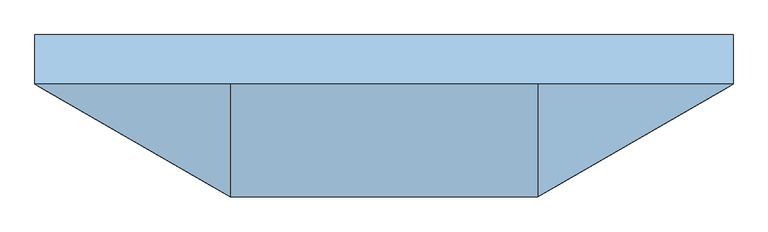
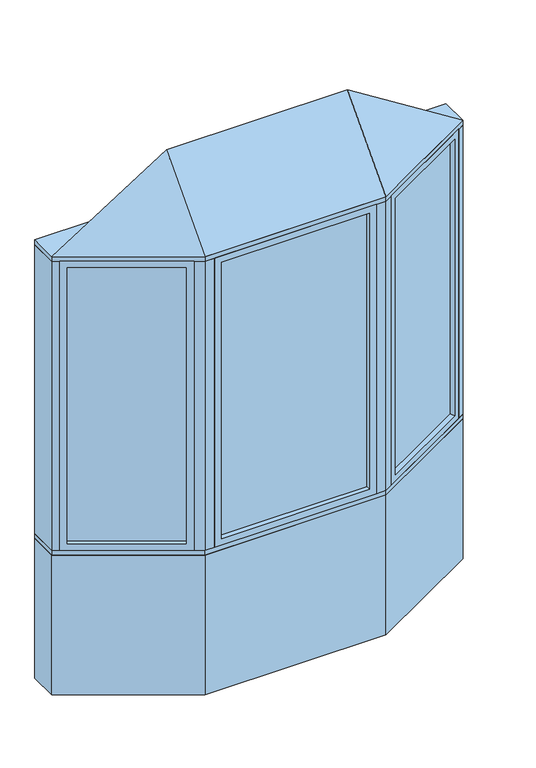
"""IFC4 building model written with IfcOpenShell, lengths in millimetres: window geometry, Pollard_Windows_Tudor Casement Bows and Bays : AML-BAY 30 AFR0616-10-600."""

from ifc_helpers import new_model, si_unit, frame, origin, origin_with_axes, place, context, project, spatial, polyline, outline, extrude, faceted_brep, source, transform, mapped, element, save


def window_2a9c98d8(model_context):
    return source(origin(), model_context, "Body", "SolidModel", [
        extrude(outline(polyline([(1013.112102, -82.0482469), (524.8834764, -363.9271754), (522.3434764, -359.5277664), (1010.572102, -77.6488379), (1013.112102, -82.0482469)])), frame((0.0, 0.0, 823.1628), z_axis=(0.0, 0.0, 1.0), x_axis=(1.0, 0.0, 0.0)), (0.0, 0.0, 1.0), 1553.6704),
        faceted_brep([(1002.1135794, -88.3982469, 835.8628), (1014.8135794, -110.3952922, 835.8628), (1014.8135794, -110.3952922, 2364.1332), (1002.1135794, -88.3982469, 2364.1332), (1010.572102, -77.6488379, 823.1628), (1013.112102, -82.0482469, 823.1628), (1013.112102, -82.0482469, 2376.8332), (1010.572102, -77.6488379, 2376.8332), (986.8735794, -62.0017926, 835.8628), (999.5735794, -83.9988379, 835.8628), (999.5735794, -83.9988379, 2364.1332), (986.8735794, -62.0017926, 2364.1332), (1045.8734073, -92.4628922, 799.998), (1017.9334073, -44.0693926, 799.998), (1017.9334073, -44.0693926, 2399.998), (1045.8734073, -92.4628922, 2399.998), (548.581999, -379.5742207, 2364.1332), (535.881999, -357.5771754, 2364.1332), (524.8834764, -363.9271754, 2376.8332), (522.3434764, -359.5277664, 2376.8332), (533.341999, -353.1777664, 2364.1332), (520.641999, -331.1807211, 2364.1332), (489.5821711, -349.1131211, 2399.998), (517.5221711, -397.5066207, 2399.998), (548.581999, -379.5742207, 835.8628), (535.881999, -357.5771754, 835.8628), (524.8834764, -363.9271754, 823.1628), (522.3434764, -359.5277664, 823.1628), (533.341999, -353.1777664, 835.8628), (520.641999, -331.1807211, 835.8628), (489.5821711, -349.1131211, 799.998), (517.5221711, -397.5066207, 799.998)], [[[0, 1, 2, 3]], [[4, 5, 6, 7]], [[8, 9, 10, 11]], [[12, 13, 14, 15]], [[3, 2, 16, 17]], [[7, 6, 18, 19]], [[11, 10, 20, 21]], [[15, 14, 22, 23]], [[17, 16, 24, 25]], [[19, 18, 26, 27]], [[21, 20, 28, 29]], [[23, 22, 30, 31]], [[25, 24, 1, 0]], [[5, 26, 18, 6], [3, 17, 25, 0]], [[27, 26, 5, 4]], [[7, 19, 27, 4], [9, 28, 20, 10]], [[29, 28, 9, 8]], [[13, 30, 22, 14], [11, 21, 29, 8]], [[31, 30, 13, 12]], [[15, 23, 31, 12], [1, 24, 16, 2]]]),
        extrude(outline(polyline([(-524.8834764, -363.9271754), (-1013.112102, -82.0482469), (-1010.572102, -77.6488379), (-522.3434764, -359.5277664), (-524.8834764, -363.9271754)])), frame((0.0, 0.0, 823.1628), z_axis=(0.0, 0.0, 1.0), x_axis=(1.0, 0.0, 0.0)), (0.0, 0.0, 1.0), 1553.6704),
        faceted_brep([(-533.341999, -353.1777664, 2364.1332), (-520.641999, -331.1807211, 2364.1332), (-520.641999, -331.1807211, 835.8628), (-533.341999, -353.1777664, 835.8628), (-524.8834764, -363.9271754, 2376.8332), (-522.3434764, -359.5277664, 2376.8332), (-522.3434764, -359.5277664, 823.1628), (-524.8834764, -363.9271754, 823.1628), (-548.581999, -379.5742207, 2364.1332), (-535.881999, -357.5771754, 2364.1332), (-535.881999, -357.5771754, 835.8628), (-548.581999, -379.5742207, 835.8628), (-489.5821711, -349.1131211, 2399.998), (-517.5221711, -397.5066207, 2399.998), (-517.5221711, -397.5066207, 799.998), (-489.5821711, -349.1131211, 799.998), (-986.8735794, -62.0017926, 835.8628), (-999.5735794, -83.9988379, 835.8628), (-1010.572102, -77.6488379, 823.1628), (-1013.112102, -82.0482469, 823.1628), (-1002.1135794, -88.3982469, 835.8628), (-1014.8135794, -110.3952922, 835.8628), (-1045.8734073, -92.4628922, 799.998), (-1017.9334073, -44.0693926, 799.998), (-986.8735794, -62.0017926, 2364.1332), (-999.5735794, -83.9988379, 2364.1332), (-1010.572102, -77.6488379, 2376.8332), (-1013.112102, -82.0482469, 2376.8332), (-1002.1135794, -88.3982469, 2364.1332), (-1014.8135794, -110.3952922, 2364.1332), (-1045.8734073, -92.4628922, 2399.998), (-1017.9334073, -44.0693926, 2399.998)], [[[0, 1, 2, 3]], [[4, 5, 6, 7]], [[8, 9, 10, 11]], [[12, 13, 14, 15]], [[3, 2, 16, 17]], [[7, 6, 18, 19]], [[11, 10, 20, 21]], [[15, 14, 22, 23]], [[17, 16, 24, 25]], [[19, 18, 26, 27]], [[21, 20, 28, 29]], [[23, 22, 30, 31]], [[15, 23, 31, 12], [1, 24, 16, 2]], [[25, 24, 1, 0]], [[5, 26, 18, 6], [3, 17, 25, 0]], [[27, 26, 5, 4]], [[7, 19, 27, 4], [9, 28, 20, 10]], [[29, 28, 9, 8]], [[13, 30, 22, 14], [11, 21, 29, 8]], [[31, 30, 13, 12]]]),
        extrude(outline(polyline([(401.0561009, -397.1066207), (-401.0561009, -397.1066207), (-401.0561009, -392.0266207), (401.0561009, -392.0266207), (401.0561009, -397.1066207)])), frame((0.0, 0.0, 823.1628), z_axis=(0.0, 0.0, 1.0), x_axis=(1.0, 0.0, 0.0)), (0.0, 0.0, 1.0), 1553.6704),
        faceted_brep([(388.3561009, -397.1066207, 835.8628), (388.3561009, -422.5066207, 835.8628), (388.3561009, -422.5066207, 2364.1332), (388.3561009, -397.1066207, 2364.1332), (401.0561009, -392.0266207, 823.1628), (401.0561009, -397.1066207, 823.1628), (401.0561009, -397.1066207, 2376.8332), (401.0561009, -392.0266207, 2376.8332), (388.3561009, -366.6266207, 835.8628), (388.3561009, -392.0266207, 835.8628), (388.3561009, -392.0266207, 2364.1332), (388.3561009, -366.6266207, 2364.1332), (424.2209009, -422.5066207, 799.998), (424.2209009, -366.6266207, 799.998), (424.2209009, -366.6266207, 2399.998), (424.2209009, -422.5066207, 2399.998), (-388.3561009, -422.5066207, 2364.1332), (-388.3561009, -397.1066207, 2364.1332), (-401.0561009, -397.1066207, 2376.8332), (-401.0561009, -392.0266207, 2376.8332), (-388.3561009, -392.0266207, 2364.1332), (-388.3561009, -366.6266207, 2364.1332), (-424.2209009, -366.6266207, 2399.998), (-424.2209009, -422.5066207, 2399.998), (-388.3561009, -422.5066207, 835.8628), (-388.3561009, -397.1066207, 835.8628), (-401.0561009, -397.1066207, 823.1628), (-401.0561009, -392.0266207, 823.1628), (-388.3561009, -392.0266207, 835.8628), (-388.3561009, -366.6266207, 835.8628), (-424.2209009, -366.6266207, 799.998), (-424.2209009, -422.5066207, 799.998)], [[[0, 1, 2, 3]], [[4, 5, 6, 7]], [[8, 9, 10, 11]], [[12, 13, 14, 15]], [[3, 2, 16, 17]], [[7, 6, 18, 19]], [[11, 10, 20, 21]], [[15, 14, 22, 23]], [[17, 16, 24, 25]], [[19, 18, 26, 27]], [[21, 20, 28, 29]], [[23, 22, 30, 31]], [[15, 23, 31, 12], [1, 24, 16, 2]], [[25, 24, 1, 0]], [[5, 26, 18, 6], [3, 17, 25, 0]], [[27, 26, 5, 4]], [[7, 19, 27, 4], [9, 28, 20, 10]], [[29, 28, 9, 8]], [[13, 30, 22, 14], [11, 21, 29, 8]], [[31, 30, 13, 12]]]),
        faceted_brep([(1076.5, -74.7806207, 2425.398), (474.2209009, -422.5066207, 2425.398), (-474.2209009, -422.5066207, 2425.398), (-1076.5, -74.7806207, 2425.398), (-474.2209009, -74.7806207, 2806.398), (474.2209009, -74.7806207, 2806.398)], [[[0, 1, 2, 3]], [[3, 2, 4]], [[2, 1, 5, 4]], [[1, 0, 5]], [[0, 3, 4, 5]]]),
        extrude(outline(polyline([(-1076.5, 77.6193793), (1076.5, 77.6193793), (1076.5, -74.7806207), (474.2209009, -422.5066207), (-474.2209009, -422.5066207), (-1076.5, -74.7806207), (-1076.5, 77.6193793)])), frame((0.0, 0.0, 2399.998), z_axis=(0.0, 0.0, 1.0), x_axis=(1.0, 0.0, 0.0)), (0.0, 0.0, 1.0), 25.4),
        extrude(outline(polyline([(-1076.5, -74.7806207), (-1076.5, 77.6193793), (-1035.6645431, 77.6193793), (-1035.6645431, -74.7806207), (-1045.8734073, -92.4628922), (-1076.5, -74.7806207)])), frame((0.0, 0.0, 799.998), z_axis=(0.0, 0.0, 1.0), x_axis=(1.0, 0.0, 0.0)), (0.0, 0.0, 1.0), 1600.0),
        extrude(outline(polyline([(1076.5, 77.6193793), (1076.5, -74.7806207), (1045.8734073, -92.4628922), (1035.6645431, -74.7806207), (1035.6645431, 77.6193793), (1076.5, 77.6193793)])), frame((0.0, 0.0, 799.998), z_axis=(0.0, 0.0, 1.0), x_axis=(1.0, 0.0, 0.0)), (0.0, 0.0, 1.0), 1600.0),
        extrude(outline(polyline([(474.2209009, -422.5066207), (424.2209009, -422.5066207), (424.2209009, -372.5066207), (460.8234413, -372.5066207), (492.5221711, -354.2053505), (517.5221711, -397.5066207), (474.2209009, -422.5066207)])), frame((0.0, 0.0, 799.998), z_axis=(0.0, 0.0, 1.0), x_axis=(1.0, 0.0, 0.0)), (0.0, 0.0, 1.0), 1600.0),
        extrude(outline(polyline([(-474.2209009, -422.5066207), (-517.5221711, -397.5066207), (-492.5221711, -354.2053505), (-460.8234413, -372.5066207), (-424.2209009, -372.5066207), (-424.2209009, -422.5066207), (-474.2209009, -422.5066207)])), frame((0.0, 0.0, 799.998), z_axis=(0.0, 0.0, 1.0), x_axis=(1.0, 0.0, 0.0)), (0.0, 0.0, 1.0), 1600.0),
        extrude(outline(polyline([(-474.2209009, -422.5066207), (-1076.5, -74.7806207), (-1076.5, 77.6193793), (-1035.6645431, 77.6193793), (-433.385444, -270.1066207), (433.385444, -270.1066207), (1035.6645431, 77.6193793), (1076.5, 77.6193793), (1076.5, -74.7806207), (474.2209009, -422.5066207), (-474.2209009, -422.5066207)])), frame((0.0, 0.0, 774.598), z_axis=(0.0, 0.0, 1.0), x_axis=(1.0, 0.0, 0.0)), (0.0, 0.0, 1.0), 25.4),
        extrude(outline(polyline([(-1076.5, -74.7806207), (-1076.5, 77.6193793), (-1035.6645431, 77.6193793), (-433.385444, -270.1066207), (433.385444, -270.1066207), (1035.6645431, 77.6193793), (1076.5, 77.6193793), (1076.5, -74.7806207), (474.2209009, -422.5066207), (-474.2209009, -422.5066207), (-1076.5, -74.7806207)])), origin_with_axes(), (0.0, 0.0, 1.0), 774.598),
    ])


if __name__ == "__main__":
    model = new_model("IFC4")
    model_context = context("Model", 3, world=origin())
    ifc_project = project(units=[si_unit("LENGTHUNIT", "METRE", prefix="MILLI")], contexts=[model_context])
    site = spatial("IfcSite", under=ifc_project)
    building = spatial("IfcBuilding", under=site)
    placement = place(None, origin())
    window_shape = window_2a9c98d8(model_context)
    element("IfcWindow", 1, ObjectType="Pollard_Windows_Tudor Casement Bows and Bays : AML-BAY 30 AFR0616-10-600", at=placement, inside=building, context=model_context, shape_type="MappedRepresentation", body=[
        mapped(window_shape, transform((0.0, 0.0, 0.0), x_axis=(1.0, 0.0, 0.0), y_axis=(0.0, 1.0, 0.0), z_axis=(0.0, 0.0, 1.0))),
    ])
    save(model, "model.ifc")
